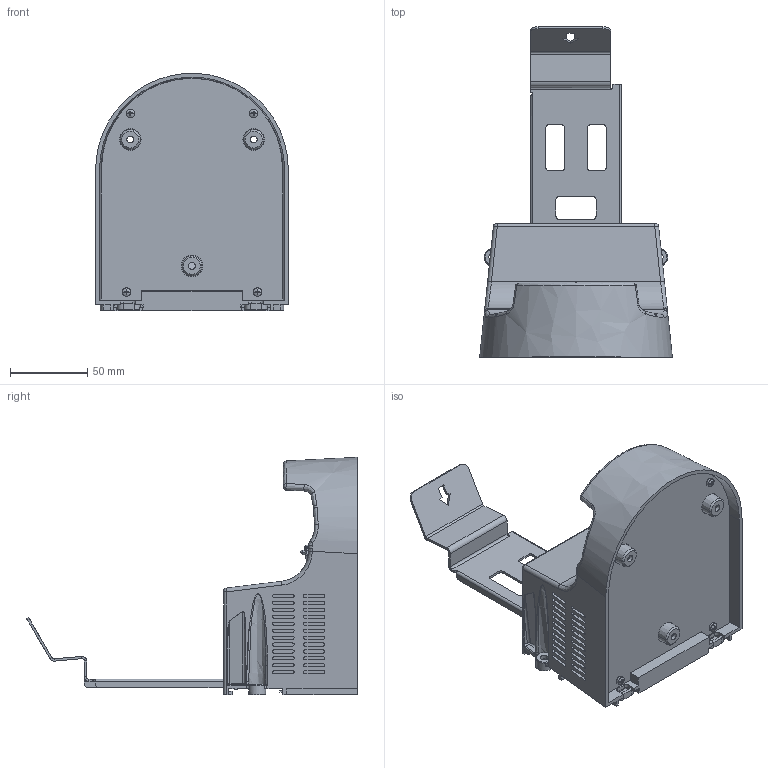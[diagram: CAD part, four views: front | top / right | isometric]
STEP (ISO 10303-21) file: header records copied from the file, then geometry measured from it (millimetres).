
FILE_DESCRIPTION((''),'2;1');
FILE_NAME('3D_CRADLE_CHANGE','2017-03-16T',('bckim'),(''),'CREO PARAMETRIC BY PTC INC, 2016260','CREO PARAMETRIC BY PTC INC, 2016260','');
FILE_SCHEMA(('CONFIG_CONTROL_DESIGN'));
Products named in the file (1): 3D_CRADLE_CHANGE
Bounding box: 125 x 214.5 x 153.93 mm (x, y, z)
Volume: 705825.8 mm3; surface area: 133271.1 mm2
Topology: 1 solids, 41 shells, 1799 faces, 4532 edges, 2935 vertices
Faces by surface type: plane 1189, cylinder 362, cone 126, bspline 70, sphere 42, torus 9, extrusion 1
Entity records: 60832 total; most frequent: CARTESIAN_POINT 17982, ORIENTED_EDGE 9024, DIRECTION 8451, EDGE_CURVE 4512, VECTOR 3131, LINE 3130, VERTEX_POINT 2935, AXIS2_PLACEMENT_3D 2660
